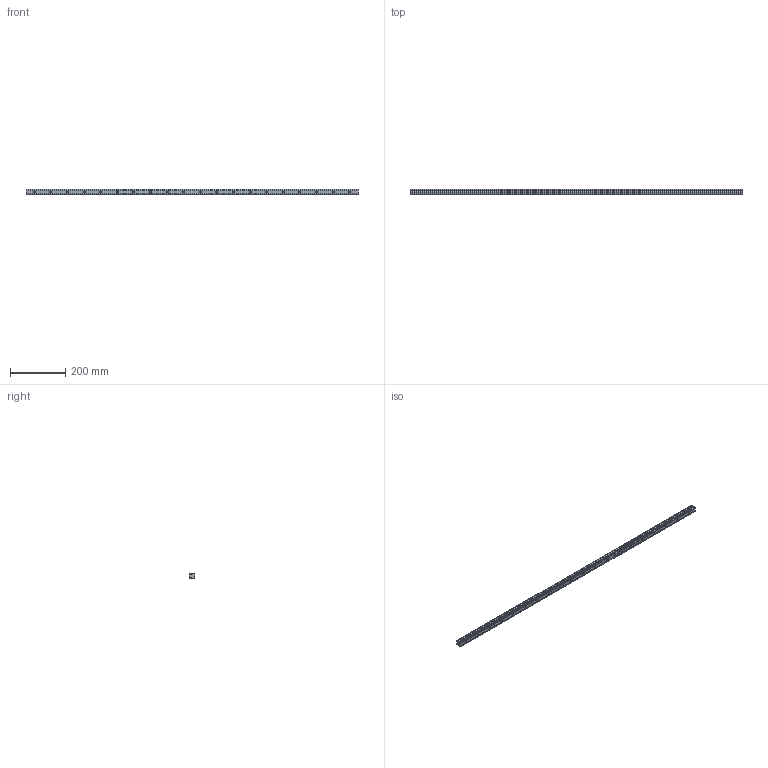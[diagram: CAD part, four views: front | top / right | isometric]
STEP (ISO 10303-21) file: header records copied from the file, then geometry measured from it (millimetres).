
FILE_DESCRIPTION (( 'STEP AP203' ), '1' );
FILE_NAME ('L1018.20R-1200.step', '2023-08-06T09:07:41', ( '' ), ( '' ), 'SwSTEP 2.0', 'SolidWorks 2019', '' );
FILE_SCHEMA (( 'CONFIG_CONTROL_DESIGN' ));
Length unit declared in the file: millimetre
Products named in the file (1): L1018.20R-1200
Bounding box: 1200 x 19.3 x 20 mm (x, y, z)
Volume: 380553.9 mm3; surface area: 101917.2 mm2
Topology: 1 solids, 1 shells, 209 faces, 481 edges, 274 vertices
Faces by surface type: cylinder 83, cone 80, plane 46
Entity records: 5678 total; most frequent: DIRECTION 1067, CARTESIAN_POINT 925, ORIENTED_EDGE 882, EDGE_CURVE 441, AXIS2_PLACEMENT_3D 416, VERTEX_POINT 274, EDGE_LOOP 249, VECTOR 235
